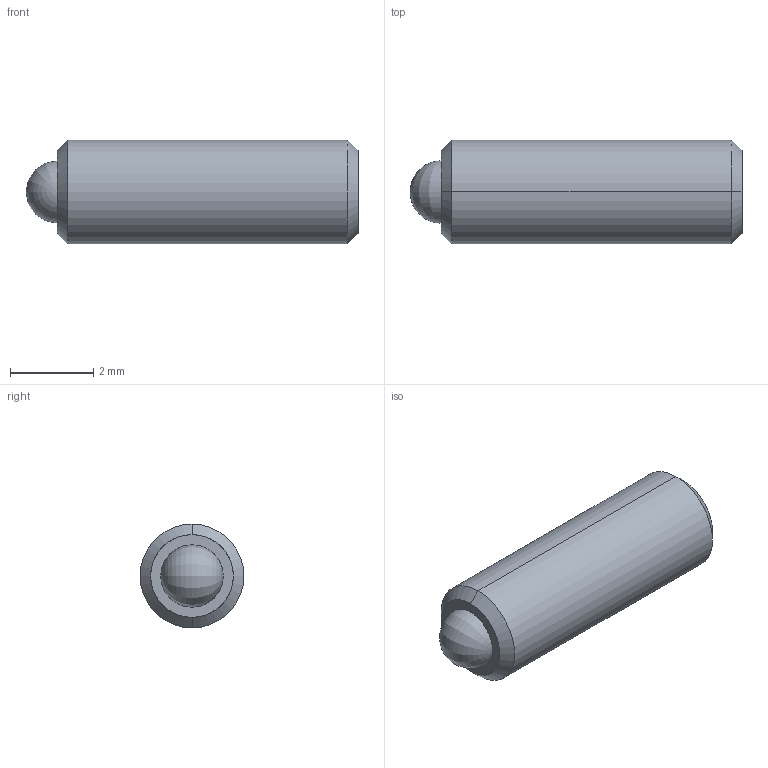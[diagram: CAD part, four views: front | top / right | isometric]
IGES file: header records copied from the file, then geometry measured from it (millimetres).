
Start section: SolidWorks IGES file using analytic representation for surfaces
Global section: file name: C:\Users\workpc\Desktop\KMA Solidworks\TS25-20 Series\TS25-20-08.IGS; native system: SolidWorks 2013; preprocessor: SolidWorks 2013; author: workpc; date: 150429.122630; units: millimetre
Bounding box: 8 x 2.5 x 2.5 mm (x, y, z)
Surface area: 85.5 mm2 (no closed solid volume)
Topology: 0 solids, 0 shells, 20 faces, 172 edges, 168 vertices
Faces by surface type: revolution 10, bspline 10
